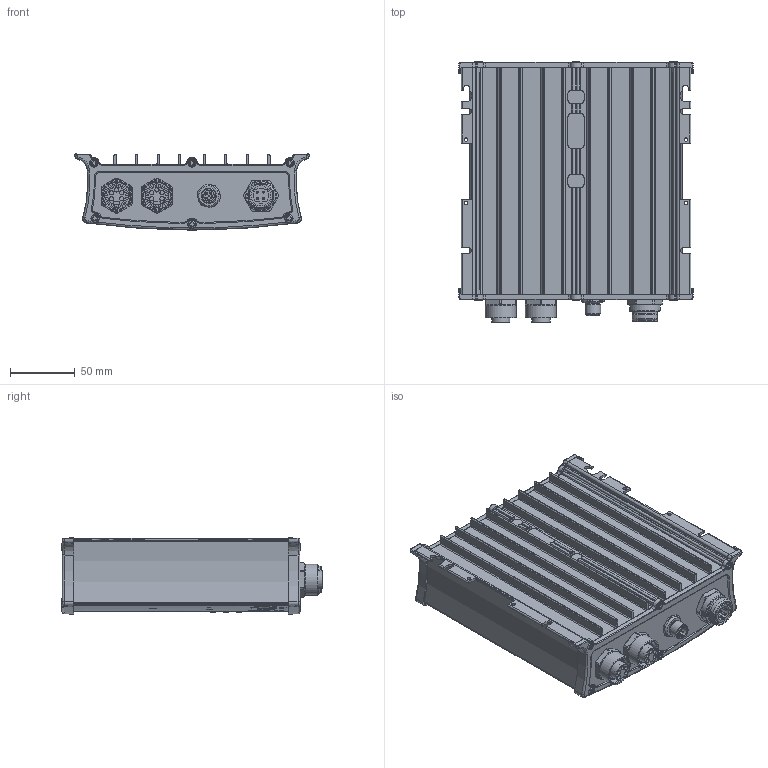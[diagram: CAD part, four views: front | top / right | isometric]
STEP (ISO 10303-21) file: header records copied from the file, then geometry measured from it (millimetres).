
FILE_DESCRIPTION (( 'STEP AP214' ), '1' );
FILE_NAME ('451.37.01.STEP', '2024-07-29T11:53:54', ( '' ), ( '' ), 'SwSTEP 2.0', 'SolidWorks 2024', '' );
FILE_SCHEMA (( 'AUTOMOTIVE_DESIGN' ));
Length unit declared in the file: millimetre
Products named in the file (1): 451.37.01
Bounding box: 180.63 x 200.77 x 58.73 mm (x, y, z)
Volume: 278919.1 mm3; surface area: 348559.8 mm2
Topology: 42 solids, 42 shells, 2397 faces, 6762 edges, 4753 vertices
Faces by surface type: cylinder 876, plane 804, torus 417, cone 213, bspline 85, sphere 2
Full cylindrical faces by diameter (mm): 0.56 x6, 1 x5, 1.3 x10, 1.411 x1, 1.457 x1, 1.486 x1, 1.527 x1, 1.6 x10, 2 x10, 2.2 x10, 2.4 x3, 2.5 x8, 2.501 x16, 2.52 x2, 2.6 x10, 2.7 x4, 3 x12, 3.3 x10, 3.6 x12, 5 x3, 6 x24, 8.3 x1, 10.5 x1, 10.65 x1, 12 x1, 12.15 x1, 13.4 x1, 13.8 x1, 14 x2, 15.4 x1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
Entity records: 130547 total; most frequent: CARTESIAN_POINT 44513, ORIENTED_EDGE 12516, DIRECTION 11746, EDGE_CURVE 6258, AXIS2_PLACEMENT_3D 4800, VERTEX_POINT 4597, EDGE_LOOP 3147, FACE_OUTER_BOUND 2696
